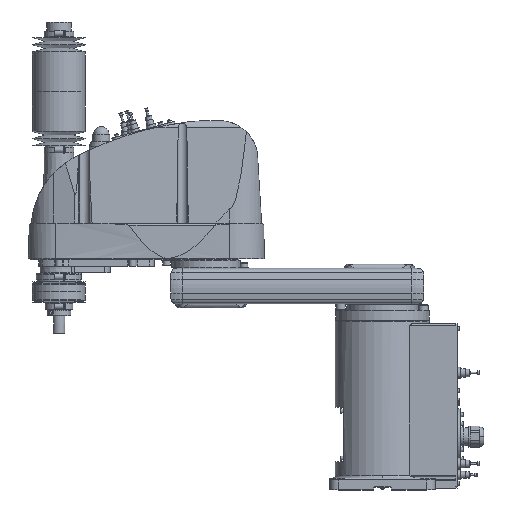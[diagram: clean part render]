
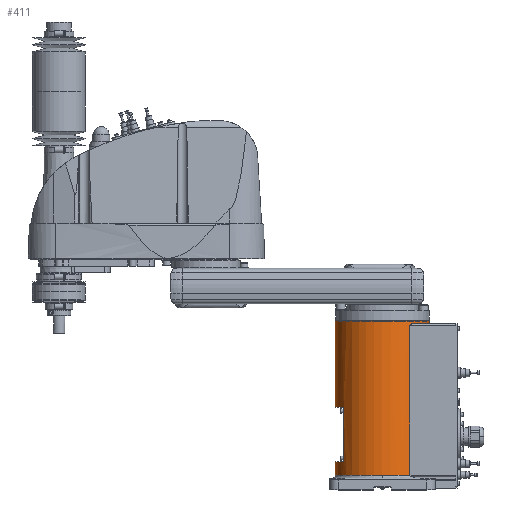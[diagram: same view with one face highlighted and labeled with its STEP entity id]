
A CAD part, top view. The second image highlights one B-rep face of the part: STEP entity #411.
In plain terms, the highlighted cylindrical face has radius 80 mm (diameter 160 mm), a partial arc.
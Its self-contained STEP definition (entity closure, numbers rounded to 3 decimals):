
#411 = ADVANCED_FACE( '', ( #2223 ), #2224, .T. );
#2223 = FACE_OUTER_BOUND( '', #6114, .T. );
#2224 = CYLINDRICAL_SURFACE( '', #6115, 80. );
#6114 = EDGE_LOOP( '', ( #10005, #10006, #10007, #10008, #10009, #10010, #10011, #10012, #10013, #10014, #10015, #10016 ) );
#6115 = AXIS2_PLACEMENT_3D( '', #10017, #10018, #10019 );
#10005 = ORIENTED_EDGE( '', *, *, #24080, .F. );
#10006 = ORIENTED_EDGE( '', *, *, #24081, .T. );
#10007 = ORIENTED_EDGE( '', *, *, #24082, .F. );
#10008 = ORIENTED_EDGE( '', *, *, #24083, .T. );
#10009 = ORIENTED_EDGE( '', *, *, #24084, .T. );
#10010 = ORIENTED_EDGE( '', *, *, #24085, .T. );
#10011 = ORIENTED_EDGE( '', *, *, #24086, .F. );
#10012 = ORIENTED_EDGE( '', *, *, #24087, .F. );
#10013 = ORIENTED_EDGE( '', *, *, #24088, .F. );
#10014 = ORIENTED_EDGE( '', *, *, #24089, .T. );
#10015 = ORIENTED_EDGE( '', *, *, #24090, .T. );
#10016 = ORIENTED_EDGE( '', *, *, #24091, .T. );
#10017 = CARTESIAN_POINT( '', ( 0., -160.75, 0. ) );
#10018 = DIRECTION( '', ( 0., 1., 0. ) );
#10019 = DIRECTION( '', ( 1., 0., 0. ) );
#24080 = EDGE_CURVE( '', #28401, #28402, #28403, .T. );
#24081 = EDGE_CURVE( '', #28401, #28404, #28405, .T. );
#24082 = EDGE_CURVE( '', #28406, #28404, #28407, .T. );
#24083 = EDGE_CURVE( '', #28406, #28408, #28409, .T. );
#24084 = EDGE_CURVE( '', #28408, #28410, #28411, .T. );
#24085 = EDGE_CURVE( '', #28410, #28412, #28413, .T. );
#24086 = EDGE_CURVE( '', #28414, #28412, #28415, .T. );
#24087 = EDGE_CURVE( '', #28416, #28414, #28417, .T. );
#24088 = EDGE_CURVE( '', #28418, #28416, #28419, .T. );
#24089 = EDGE_CURVE( '', #28418, #28420, #28421, .T. );
#24090 = EDGE_CURVE( '', #28420, #28422, #28423, .T. );
#24091 = EDGE_CURVE( '', #28422, #28402, #28424, .T. );
#28401 = VERTEX_POINT( '', #35489 );
#28402 = VERTEX_POINT( '', #35490 );
#28403 = LINE( '', #35491, #35492 );
#28404 = VERTEX_POINT( '', #35493 );
#28405 = CIRCLE( '', #35494, 80. );
#28406 = VERTEX_POINT( '', #35495 );
#28407 = LINE( '', #35496, #35497 );
#28408 = VERTEX_POINT( '', #35498 );
#28409 = CIRCLE( '', #35499, 80. );
#28410 = VERTEX_POINT( '', #35500 );
#28411 = LINE( '', #35501, #35502 );
#28412 = VERTEX_POINT( '', #35503 );
#28413 = CIRCLE( '', #35504, 80. );
#28414 = VERTEX_POINT( '', #35505 );
#28415 = LINE( '', #35506, #35507 );
#28416 = VERTEX_POINT( '', #35508 );
#28417 = CIRCLE( '', #35509, 80. );
#28418 = VERTEX_POINT( '', #35510 );
#28419 = CIRCLE( '', #35511, 80. );
#28420 = VERTEX_POINT( '', #35512 );
#28421 = LINE( '', #35513, #35514 );
#28422 = VERTEX_POINT( '', #35515 );
#28423 = B_SPLINE_CURVE_WITH_KNOTS( '', 3, ( #35516, #35517, #35518, #35519, #35520, #35521, #35522, #35523, #35524, #35525, #35526, #35527, #35528, #35529, #35530, #35531 ), .UNSPECIFIED., .F., .F., ( 4, 2, 2, 2, 2, 2, 2, 4 ), ( 11.856, 12.522, 13.187, 13.853, 14.518, 16.226, 17.08, 17.933 ), .UNSPECIFIED. );
#28424 = CIRCLE( '', #35532, 80. );
#35489 = CARTESIAN_POINT( '', ( 80., -30., 0. ) );
#35490 = CARTESIAN_POINT( '', ( 80., -34.5, 0. ) );
#35491 = CARTESIAN_POINT( '', ( 80., -160.75, 0. ) );
#35492 = VECTOR( '', #49198, 1. );
#35493 = CARTESIAN_POINT( '', ( -80., -30., 0. ) );
#35494 = AXIS2_PLACEMENT_3D( '', #49199, #49200, #49201 );
#35495 = CARTESIAN_POINT( '', ( -80., -176., 0. ) );
#35496 = CARTESIAN_POINT( '', ( -80., -160.75, 0. ) );
#35497 = VECTOR( '', #49202, 1. );
#35498 = CARTESIAN_POINT( '', ( -66., -176., 45.211 ) );
#35499 = AXIS2_PLACEMENT_3D( '', #49203, #49204, #49205 );
#35500 = CARTESIAN_POINT( '', ( -66., -269., 45.211 ) );
#35501 = CARTESIAN_POINT( '', ( -66., -222.5, 45.211 ) );
#35502 = VECTOR( '', #49206, 1. );
#35503 = CARTESIAN_POINT( '', ( -80., -269., 0. ) );
#35504 = AXIS2_PLACEMENT_3D( '', #49207, #49208, #49209 );
#35505 = CARTESIAN_POINT( '', ( -80., -291.5, 0. ) );
#35506 = CARTESIAN_POINT( '', ( -80., -160.75, 0. ) );
#35507 = VECTOR( '', #49210, 1. );
#35508 = CARTESIAN_POINT( '', ( 0., -291.5, 80. ) );
#35509 = AXIS2_PLACEMENT_3D( '', #49211, #49212, #49213 );
#35510 = CARTESIAN_POINT( '', ( 46.637, -291.5, 65. ) );
#35511 = AXIS2_PLACEMENT_3D( '', #49214, #49215, #49216 );
#35512 = CARTESIAN_POINT( '', ( 46.637, -37.5, 65. ) );
#35513 = CARTESIAN_POINT( '', ( 46.637, -164.5, 65. ) );
#35514 = VECTOR( '', #49217, 1. );
#35515 = CARTESIAN_POINT( '', ( 50.557, -34.5, 62. ) );
#35516 = CARTESIAN_POINT( '', ( 46.637, -37.5, 65. ) );
#35517 = CARTESIAN_POINT( '', ( 46.637, -37.278, 65. ) );
#35518 = CARTESIAN_POINT( '', ( 46.671, -37.061, 64.975 ) );
#35519 = CARTESIAN_POINT( '', ( 46.798, -36.648, 64.884 ) );
#35520 = CARTESIAN_POINT( '', ( 46.89, -36.452, 64.818 ) );
#35521 = CARTESIAN_POINT( '', ( 47.114, -36.09, 64.655 ) );
#35522 = CARTESIAN_POINT( '', ( 47.246, -35.923, 64.559 ) );
#35523 = CARTESIAN_POINT( '', ( 47.532, -35.625, 64.349 ) );
#35524 = CARTESIAN_POINT( '', ( 47.685, -35.493, 64.235 ) );
#35525 = CARTESIAN_POINT( '', ( 48.229, -35.087, 63.829 ) );
#35526 = CARTESIAN_POINT( '', ( 48.688, -34.861, 63.481 ) );
#35527 = CARTESIAN_POINT( '', ( 49.396, -34.641, 62.93 ) );
#35528 = CARTESIAN_POINT( '', ( 49.635, -34.587, 62.741 ) );
#35529 = CARTESIAN_POINT( '', ( 50.105, -34.516, 62.366 ) );
#35530 = CARTESIAN_POINT( '', ( 50.336, -34.5, 62.18 ) );
#35531 = CARTESIAN_POINT( '', ( 50.557, -34.5, 62. ) );
#35532 = AXIS2_PLACEMENT_3D( '', #49218, #49219, #49220 );
#49198 = DIRECTION( '', ( 0., -1., 0. ) );
#49199 = CARTESIAN_POINT( '', ( 0., -30., 0. ) );
#49200 = DIRECTION( '', ( 0., -1., 0. ) );
#49201 = DIRECTION( '', ( 1., 0., 0. ) );
#49202 = DIRECTION( '', ( 0., 1., 0. ) );
#49203 = CARTESIAN_POINT( '', ( 0., -176., 0. ) );
#49204 = DIRECTION( '', ( 0., 1., 0. ) );
#49205 = DIRECTION( '', ( 1., 0., 0. ) );
#49206 = DIRECTION( '', ( 0., -1., 0. ) );
#49207 = CARTESIAN_POINT( '', ( 0., -269., 0. ) );
#49208 = DIRECTION( '', ( 0., -1., 0. ) );
#49209 = DIRECTION( '', ( 1., 0., 0. ) );
#49210 = DIRECTION( '', ( 0., 1., 0. ) );
#49211 = CARTESIAN_POINT( '', ( 0., -291.5, 0. ) );
#49212 = DIRECTION( '', ( 0., -1., 0. ) );
#49213 = DIRECTION( '', ( 1., 0., 0. ) );
#49214 = CARTESIAN_POINT( '', ( 0., -291.5, 0. ) );
#49215 = DIRECTION( '', ( 0., -1., 0. ) );
#49216 = DIRECTION( '', ( 1., 0., 0. ) );
#49217 = DIRECTION( '', ( 0., 1., 0. ) );
#49218 = CARTESIAN_POINT( '', ( 0., -34.5, 0. ) );
#49219 = DIRECTION( '', ( 0., 1., 0. ) );
#49220 = DIRECTION( '', ( 1., 0., 0. ) );
